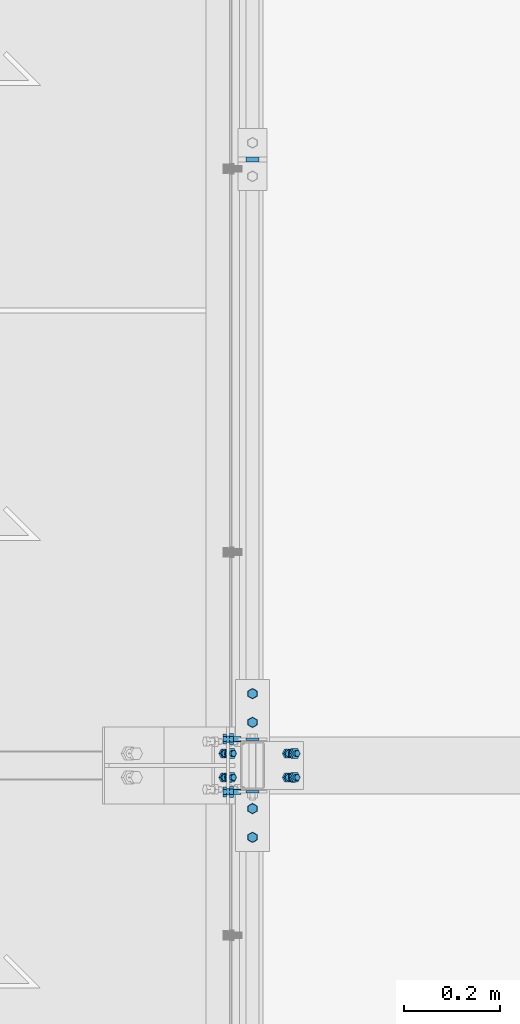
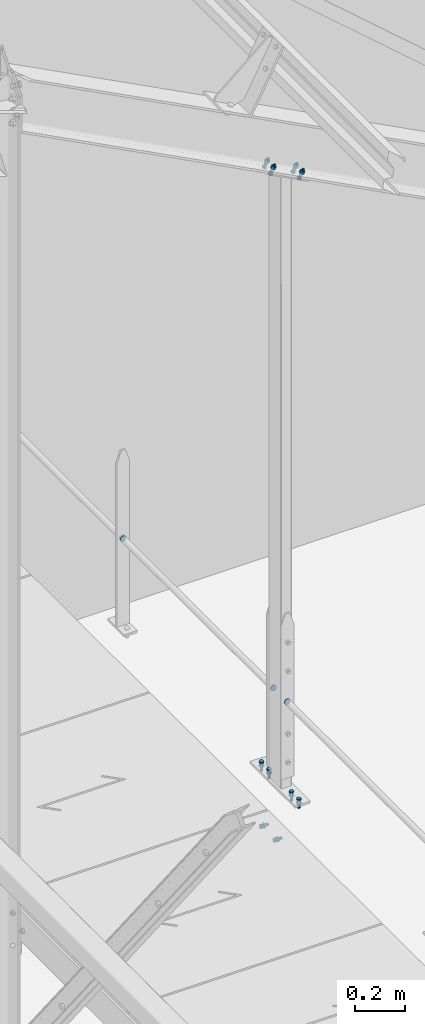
# One storey, part 227 of 362: 9 mechanical fasteners.
"""IFC2X3 building model written with IfcOpenShell, lengths in millimetres."""

from ifc_helpers import new_model, si_unit, frame, origin_with_axes, origin_2d_with_axis, place, context, subcontext, project, spatial, polyline, circle, outline, extrude, source, transform, mapped, material, type_object, element, save


model = new_model("IFC2X3")

# Units and contexts
model_context = context("Model", 3, precision=1e-05, world=origin_with_axes())
body_context = subcontext(model_context, "Body", "Model", "MODEL_VIEW")
ifc_project = project(units=[si_unit("LENGTHUNIT", "METRE", prefix="MILLI"), si_unit("AREAUNIT", "SQUARE_METRE"), si_unit("VOLUMEUNIT", "CUBIC_METRE"), si_unit("MASSUNIT", "GRAM", prefix="KILO"), si_unit("TIMEUNIT", "SECOND"), si_unit("PLANEANGLEUNIT", "RADIAN"), si_unit("SOLIDANGLEUNIT", "STERADIAN"), si_unit("THERMODYNAMICTEMPERATUREUNIT", "DEGREE_CELSIUS"), si_unit("LUMINOUSINTENSITYUNIT", "LUMEN")], contexts=[model_context])

# Site, building, storey
site_placement = place(None, origin_with_axes())
site = spatial("IfcSite", under=ifc_project, at=site_placement, Name="Undefined", CompositionType="ELEMENT")
building_placement = place(site_placement, origin_with_axes())
building = spatial("IfcBuilding", under=site, at=building_placement, Name="Undefined", CompositionType="ELEMENT")
storey_placement = place(building_placement, origin_with_axes())
storey = spatial("IfcBuildingStorey", under=building, at=storey_placement, Name="Undefined", CompositionType="ELEMENT", Elevation=0.0)

# Mechanical fasteners
ifc_material_1 = material(Name="8.8-SB-ZINGUE")
mechanical_fastener_type = type_object("IfcMechanicalFastenerType", Name="Bolt assembly")
shared_shape_1 = source(origin_with_axes(), body_context, "Body", "SweptSolid", [
    extrude(circle(Radius=7.0, at=origin_2d_with_axis()), frame((0.0, -10.0000010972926, 0.0), z_axis=(0.0, 1.0, 0.0), x_axis=(1.0, 0.0, 0.0)), (0.0, 0.0, 1.0), 10.1),
    extrude(outline(polyline([(10.39230484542, 0.0), (5.19615242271, 9.00000000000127), (-5.19615242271, 9.00000000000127), (-10.39230484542, 0.0), (-5.19615242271, -9.00000000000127), (5.19615242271, -9.00000000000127), (10.39230484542, 0.0)])), frame((0.0, -17.92, 0.0), z_axis=(0.0, 1.0, 0.0), x_axis=(1.0, 0.0, 0.0)), (0.0, 0.0, 1.0), 7.92),
    extrude(circle(Radius=6.0, at=origin_2d_with_axis()), frame((0.0, -10.0000010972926, 0.0), z_axis=(0.0, 1.0, 0.0), x_axis=(1.0, 0.0, 0.0)), (0.0, 0.0, 1.0), 40.0),
    extrude(outline(polyline([(11.5008173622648, 0.0), (5.7504086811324, 9.96000000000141), (-5.7504086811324, 9.96000000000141), (-11.5008173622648, 0.0), (-5.7504086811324, -9.96000000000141), (5.7504086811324, -9.96000000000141), (11.5008173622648, 0.0)])), frame((0.0, 0.0, 0.0), z_axis=(0.0, 1.0, 0.0), x_axis=(1.0, 0.0, 0.0)), (0.0, 0.0, 1.0), 7.92),
])
for number, where, z_axis, x_axis, name in (
    (1, (13993.9998855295, 3950.00010619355, 8239.99999240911), (1.0, 0.0, 0.0), (0.0, -1.0, 0.0), "Bolt assembly"),
    (2, (13993.9998855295, 3650.00010619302, 8240.00002612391), (-1.0, 0.0, 0.0), (0.0, 1.0, 0.0), "Bolt assembly"),
):
    element("IfcMechanicalFastener", number, at=place(storey_placement, frame(where, z_axis=z_axis, x_axis=x_axis)), inside=storey, type_object=mechanical_fastener_type, material=ifc_material_1, Name=name, NominalDiameter=12.0, NominalLength=40.0, context=body_context, shape_type="MappedRepresentation", body=[
        mapped(shared_shape_1, transform((0.0, 0.0, 0.0))),
        mapped(shared_shape_1, transform((60.0, 0.0, 0.0))),
    ])
ifc_material_2 = material(Name="6.8")
shared_shape_2 = source(origin_with_axes(), body_context, "Body", "SweptSolid", [
    extrude(circle(Radius=14.0, at=origin_2d_with_axis()), frame((0.0, -5.00000000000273, 0.0), z_axis=(0.0, 1.0, 0.0), x_axis=(1.0, 0.0, 0.0)), (0.0, 0.0, 1.0), 10.1),
])
mechanical_fastener_placement = place(storey_placement, frame((13993.9998864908, 5065.00344774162, 8673.8000038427), z_axis=(0.0, 0.0, 1.0), x_axis=(-1.0, 0.0, 0.0)))
element("IfcMechanicalFastener", 3, at=mechanical_fastener_placement, inside=storey, type_object=mechanical_fastener_type, material=ifc_material_2, Name="Bolt assembly", NominalDiameter=27.0, NominalLength=10.0, context=body_context, shape_type="MappedRepresentation", body=[
    mapped(shared_shape_2, transform((0.0, 0.0, 0.0))),
])
shared_shape_3 = source(origin_with_axes(), body_context, "Body", "SweptSolid", [
    extrude(circle(Radius=14.0, at=origin_2d_with_axis()), frame((0.0, -2.5, 0.0), z_axis=(0.0, 1.0, 0.0), x_axis=(1.0, 0.0, 0.0)), (0.0, 0.0, 1.0), 5.1),
])
for number, where, z_axis, x_axis, name in (
    (4, (13993.9998855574, 3745.00000944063, 8673.80000478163), (0.0, 0.0, 1.0), (-1.0, 0.0, 0.0), "Bolt assembly"),
    (5, (13993.9998856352, 3855.00000943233, 8673.80000470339), (0.0, 0.0, 1.0), (-1.0, 0.0, 0.0), "Bolt assembly"),
):
    element("IfcMechanicalFastener", number, at=place(storey_placement, frame(where, z_axis=z_axis, x_axis=x_axis)), inside=storey, type_object=mechanical_fastener_type, material=ifc_material_2, Name=name, NominalDiameter=27.0, NominalLength=10.0, context=body_context, shape_type="MappedRepresentation", body=[
        mapped(shared_shape_3, transform((0.0, 0.0, 0.0))),
    ])
shared_shape_4 = source(origin_with_axes(), body_context, "Body", "SweptSolid", [
    extrude(circle(Radius=7.0, at=origin_2d_with_axis()), frame((0.0, -0.100011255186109, 0.0), z_axis=(0.0, 1.0, 0.0), x_axis=(1.0, 0.0, 0.0)), (0.0, 0.0, 1.0), 9.9),
    extrude(circle(Radius=7.0, at=origin_2d_with_axis()), frame((0.0, -9.9, 0.0), z_axis=(0.0, 1.0, 0.0), x_axis=(1.0, 0.0, 0.0)), (0.0, 0.0, 1.0), 10.0),
    extrude(outline(polyline([(10.39230484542, 0.0), (5.19615242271, 9.00000000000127), (-5.19615242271, 9.00000000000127), (-10.39230484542, 0.0), (-5.19615242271, -9.00000000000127), (5.19615242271, -9.00000000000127), (10.39230484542, 0.0)])), frame((0.0, -17.92, 0.0), z_axis=(0.0, 1.0, 0.0), x_axis=(1.0, 0.0, 0.0)), (0.0, 0.0, 1.0), 7.92),
    extrude(circle(Radius=6.0, at=origin_2d_with_axis()), frame((0.0, -10.0000010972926, 0.0), z_axis=(0.0, 1.0, 0.0), x_axis=(1.0, 0.0, 0.0)), (0.0, 0.0, 1.0), 40.0),
    extrude(circle(Radius=10.8, at=origin_2d_with_axis()), frame((0.0, 9.80000019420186, 0.0), z_axis=(0.0, 1.0, 0.0), x_axis=(1.0, 0.0, 0.0)), (0.0, 0.0, 1.0), 3.96),
    extrude(outline(polyline([(11.5008173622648, 0.0), (5.7504086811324, 9.96000000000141), (-5.7504086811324, 9.96000000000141), (-11.5008173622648, 0.0), (-5.7504086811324, -9.96000000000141), (5.7504086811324, -9.96000000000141), (11.5008173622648, 0.0)])), frame((0.0, 13.7600001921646, 0.0), z_axis=(0.0, 1.0, 0.0), x_axis=(1.0, 0.0, 0.0)), (0.0, 0.0, 1.0), 7.92),
])
for number, where, z_axis, x_axis, name in (
    (6, (14073.7472683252, 3799.99999999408, 11206.6642092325), (0.0, 1.0, 0.0), (-0.886082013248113, 9.38091927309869e-07, 0.463528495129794), "Bolt assembly"),
    (7, (13940.8349636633, 3799.99999999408, 11276.1934783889), (0.0, -1.0, 0.0), (0.886081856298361, 3.500000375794e-08, -0.463528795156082), "Bolt assembly"),
):
    element("IfcMechanicalFastener", number, at=place(storey_placement, frame(where, z_axis=z_axis, x_axis=x_axis)), inside=storey, type_object=mechanical_fastener_type, material=ifc_material_1, Name=name, NominalDiameter=12.0, NominalLength=40.0, context=body_context, shape_type="MappedRepresentation", body=[
        mapped(shared_shape_4, transform((0.0, 0.0, -25.0))),
        mapped(shared_shape_4, transform((0.0, 0.0, 25.0))),
    ])
shared_shape_5 = source(origin_with_axes(), body_context, "Body", "SweptSolid", [
    extrude(circle(Radius=7.0, at=origin_2d_with_axis()), frame((0.0, -6.5, 0.0), z_axis=(0.0, 1.0, 0.0), x_axis=(1.0, 0.0, 0.0)), (0.0, 0.0, 1.0), 6.1),
    extrude(outline(polyline([(10.39230484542, 0.0), (5.19615242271, 9.00000000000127), (-5.19615242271, 9.00000000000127), (-10.39230484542, 0.0), (-5.19615242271, -9.00000000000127), (5.19615242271, -9.00000000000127), (10.39230484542, 0.0)])), frame((0.0, -14.42, 0.0), z_axis=(0.0, 1.0, 0.0), x_axis=(1.0, 0.0, 0.0)), (0.0, 0.0, 1.0), 7.92),
    extrude(circle(Radius=6.0, at=origin_2d_with_axis()), frame((0.0, -6.5, 0.0), z_axis=(0.0, 1.0, 0.0), x_axis=(1.0, 0.0, 0.0)), (0.0, 0.0, 1.0), 30.0),
    extrude(outline(polyline([(11.5008173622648, 0.0), (5.7504086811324, 9.96000000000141), (-5.7504086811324, 9.96000000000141), (-11.5008173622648, 0.0), (-5.7504086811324, -9.96000000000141), (5.7504086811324, -9.96000000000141), (11.5008173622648, 0.0)])), frame((0.0, -0.5, 0.0), z_axis=(0.0, 1.0, 0.0), x_axis=(1.0, 0.0, 0.0)), (0.0, 0.0, 1.0), 7.92),
])
for number, where, z_axis, x_axis, name in (
    (8, (13946.4998855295, 3854.99999063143, 8015.00000000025), (0.0, 0.0, 1.0), (0.0, -1.0, 0.0), "Bolt assembly"),
    (9, (13946.4998855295, 3744.99999998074, 8015.00000000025), (0.0, 0.0, -1.0), (0.0, 1.0, 0.0), "Bolt assembly"),
):
    element("IfcMechanicalFastener", number, at=place(storey_placement, frame(where, z_axis=z_axis, x_axis=x_axis)), inside=storey, type_object=mechanical_fastener_type, material=ifc_material_1, Name=name, NominalDiameter=12.0, NominalLength=30.0, context=body_context, shape_type="MappedRepresentation", body=[
        mapped(shared_shape_5, transform((0.0, 0.0, 0.0))),
    ])

save(model, "model.ifc")
